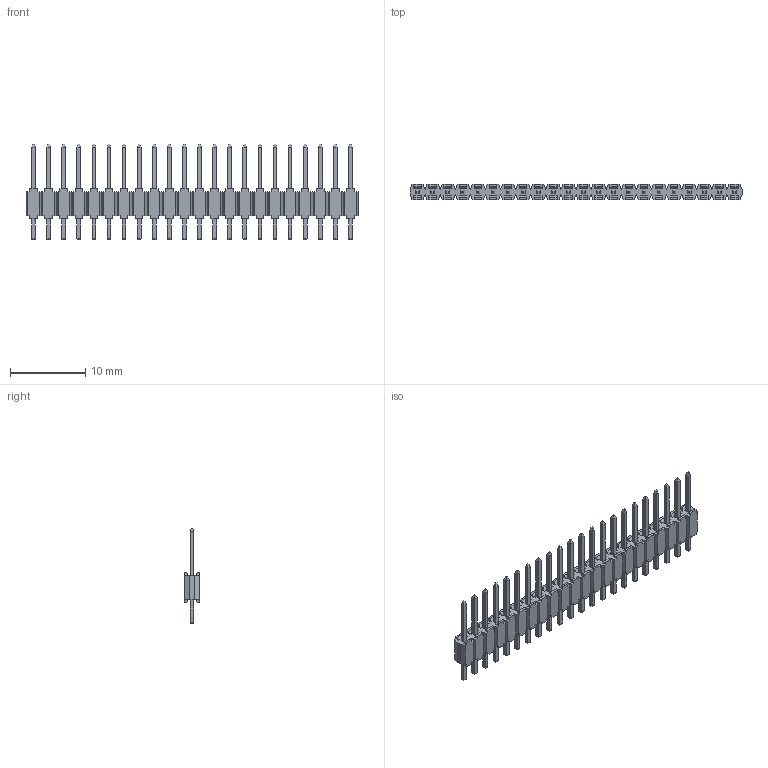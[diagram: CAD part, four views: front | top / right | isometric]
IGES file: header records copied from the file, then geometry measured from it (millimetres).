
Global section: file name: N:\GOLF_VI_2mm_UGII\9514XX_906XX06_AR\951422-9060806-AR.igs; native system: NX V3.0; preprocessor: UGS NX IGES V4.0; date: 20070314.143114; units: millimetre
Bounding box: 44 x 2 x 12.7 mm (x, y, z)
Surface area: 1072.7 mm2 (no closed solid volume)
Topology: 0 solids, 0 shells, 884 faces, 4677 edges, 4677 vertices
Faces by surface type: bspline 884
